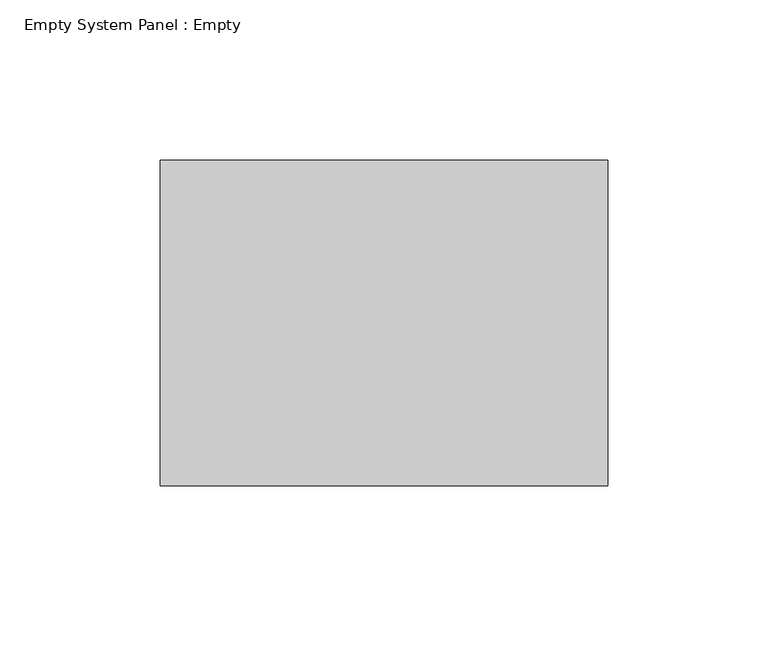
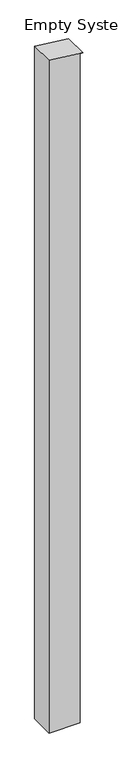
"""IFC4 building model written with IfcOpenShell, lengths in millimetres: plate geometry, Empty System Panel : Empty."""

from ifc_helpers import new_model, si_unit, frame, origin, place, context, project, spatial, polyline, outline, extrude, source, transform, mapped, element, save


def empty_system_panel_empty_4da15829(model_context):
    return source(origin(), model_context, "Body", "SweptSolid", [
        extrude(outline(polyline([(0.0, -69.85), (0.0, 57.15), (2911.8133078, 57.15), (2911.8133078, 69.85), (2927.4384977, -69.85), (0.0, -69.85)])), frame((0.0, -50.8, 0.0), z_axis=(0.0, 1.0, 0.0), x_axis=(0.0, 0.0, 1.0)), (0.0, 0.0, 1.0), 101.6),
    ])


if __name__ == "__main__":
    model = new_model("IFC4")
    model_context = context("Model", 3, world=origin())
    ifc_project = project(units=[si_unit("LENGTHUNIT", "METRE", prefix="MILLI")], contexts=[model_context])
    site = spatial("IfcSite", under=ifc_project)
    building = spatial("IfcBuilding", under=site)
    placement = place(None, origin())
    empty_system_panel_empty_shape = empty_system_panel_empty_4da15829(model_context)
    element("IfcPlate", 1, ObjectType="Empty System Panel : Empty", at=placement, inside=building, context=model_context, shape_type="MappedRepresentation", body=[
        mapped(empty_system_panel_empty_shape, transform((0.0, 0.0, 0.0), x_axis=(1.0, 0.0, 0.0), y_axis=(0.0, 1.0, 0.0), z_axis=(0.0, 0.0, 1.0))),
    ])
    save(model, "model.ifc")
